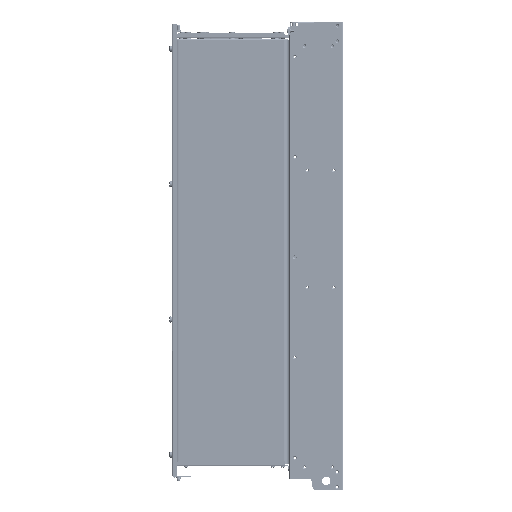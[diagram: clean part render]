
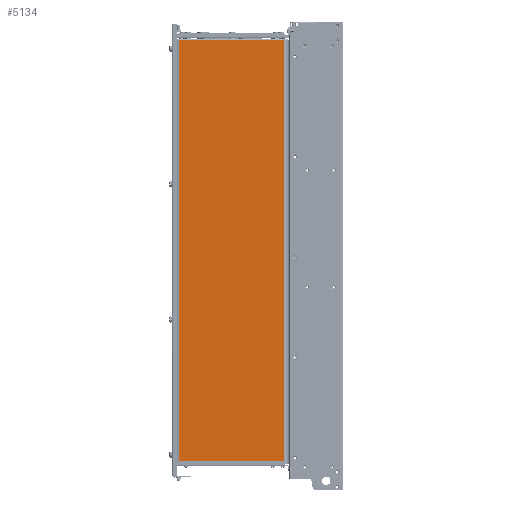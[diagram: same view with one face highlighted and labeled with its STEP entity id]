
A CAD part, left-side view. The second image highlights one B-rep face of the part: STEP entity #5134.
In plain terms, the highlighted planar face has unit normal (-1, 0, 0).
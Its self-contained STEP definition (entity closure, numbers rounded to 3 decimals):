
#5134=ADVANCED_FACE('',(#17660),#17661,.T.);
#17660=FACE_OUTER_BOUND('',#37967,.T.);
#17661=PLANE('',#37968);
#37967=EDGE_LOOP('',(#81220,#81221,#81222,#81223));
#37968=AXIS2_PLACEMENT_3D('',#81224,#81225,#81226);
#81220=ORIENTED_EDGE('',*,*,#123831,.F.);
#81221=ORIENTED_EDGE('',*,*,#123655,.F.);
#81222=ORIENTED_EDGE('',*,*,#123654,.T.);
#81223=ORIENTED_EDGE('',*,*,#123653,.F.);
#81224=CARTESIAN_POINT('',(0.0,318.5,-32.0));
#81225=DIRECTION('',(-1.0,0.0,0.0));
#81226=DIRECTION('',(0.0,0.0,1.0));
#123653=EDGE_CURVE('',#149056,#148243,#149425,.T.);
#123654=EDGE_CURVE('',#148534,#148243,#149426,.T.);
#123655=EDGE_CURVE('',#148534,#149065,#149427,.T.);
#123831=EDGE_CURVE('',#149065,#149056,#149689,.T.);
#148243=VERTEX_POINT('',#187131);
#148534=VERTEX_POINT('',#187545);
#149056=VERTEX_POINT('',#188275);
#149065=VERTEX_POINT('',#188287);
#149425=LINE('',#188788,#188789);
#149426=LINE('',#188790,#188791);
#149427=LINE('',#188792,#188793);
#149689=LINE('',#189150,#189151);
#187131=CARTESIAN_POINT('',(0.0,309.0,-830.2));
#187545=CARTESIAN_POINT('',(0.0,309.0,-33.8));
#188275=CARTESIAN_POINT('',(0.0,112.0,-830.2));
#188287=CARTESIAN_POINT('',(0.0,112.0,-33.8));
#188788=CARTESIAN_POINT('',(0.0,112.0,-830.2));
#188789=VECTOR('',#241482,197.0);
#188790=CARTESIAN_POINT('',(0.0,309.0,-33.8));
#188791=VECTOR('',#241483,796.4);
#188792=CARTESIAN_POINT('',(0.0,309.0,-33.8));
#188793=VECTOR('',#241484,197.0);
#189150=CARTESIAN_POINT('',(0.0,112.0,-33.8));
#189151=VECTOR('',#241820,796.4);
#241482=DIRECTION('',(0.0,1.0,0.0));
#241483=DIRECTION('',(0.0,0.0,-1.0));
#241484=DIRECTION('',(0.0,-1.0,0.0));
#241820=DIRECTION('',(0.0,0.0,-1.0));
